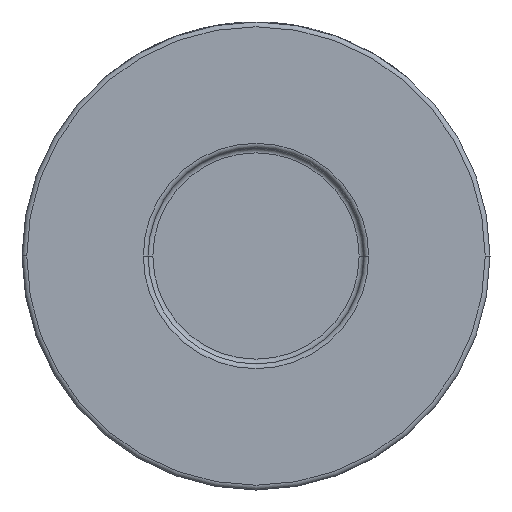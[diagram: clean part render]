
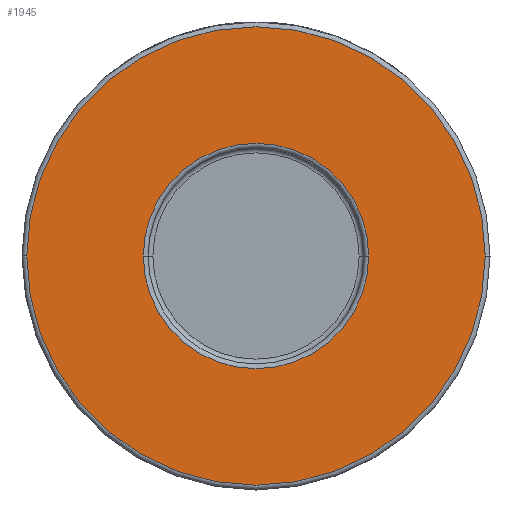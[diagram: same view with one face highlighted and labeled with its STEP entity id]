
A CAD part, front view. The second image highlights one B-rep face of the part: STEP entity #1945.
In plain terms, the highlighted planar face has unit normal (0, -1, 0).
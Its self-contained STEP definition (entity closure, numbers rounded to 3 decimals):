
#153 = EDGE_LOOP ( 'NONE', ( #3253, #1201 ) ) ;
#226 = DIRECTION ( 'NONE',  ( 0., -1., 0. ) ) ;
#300 = EDGE_CURVE ( 'NONE', #673, #565, #2801, .T. ) ;
#565 = VERTEX_POINT ( 'NONE', #3611 ) ;
#673 = VERTEX_POINT ( 'NONE', #1268 ) ;
#682 = DIRECTION ( 'NONE',  ( 1., 0., 0. ) ) ;
#694 = AXIS2_PLACEMENT_3D ( 'NONE', #2698, #791, #4508 ) ;
#791 = DIRECTION ( 'NONE',  ( 0., -1., 0. ) ) ;
#929 = CIRCLE ( 'NONE', #694, 48. ) ;
#1039 = CARTESIAN_POINT ( 'NONE',  ( 49., -30., 0. ) ) ;
#1195 = AXIS2_PLACEMENT_3D ( 'NONE', #1261, #2111, #1333 ) ;
#1201 = ORIENTED_EDGE ( 'NONE', *, *, #300, .T. ) ;
#1261 = CARTESIAN_POINT ( 'NONE',  ( 0., -30., 0. ) ) ;
#1268 = CARTESIAN_POINT ( 'NONE',  ( -23.6, -30., 0. ) ) ;
#1333 = DIRECTION ( 'NONE',  ( 1., 0., 0. ) ) ;
#1500 = VERTEX_POINT ( 'NONE', #4175 ) ;
#1663 = CIRCLE ( 'NONE', #1195, 23.6 ) ;
#1776 = VERTEX_POINT ( 'NONE', #2666 ) ;
#1858 = EDGE_CURVE ( 'NONE', #565, #673, #1663, .T. ) ;
#1945 = ADVANCED_FACE ( 'NONE', ( #2819, #4266 ), #2489, .T. ) ;
#1991 = CARTESIAN_POINT ( 'NONE',  ( 0., -30., 0. ) ) ;
#2006 = AXIS2_PLACEMENT_3D ( 'NONE', #2070, #226, #2842 ) ;
#2070 = CARTESIAN_POINT ( 'NONE',  ( 0., -30., 0. ) ) ;
#2111 = DIRECTION ( 'NONE',  ( 0., 1., 0. ) ) ;
#2398 = DIRECTION ( 'NONE',  ( 0., 1., 0. ) ) ;
#2489 = PLANE ( 'NONE',  #3432 ) ;
#2666 = CARTESIAN_POINT ( 'NONE',  ( 48., -30., 0. ) ) ;
#2698 = CARTESIAN_POINT ( 'NONE',  ( 0., -30., 0. ) ) ;
#2801 = CIRCLE ( 'NONE', #2945, 23.6 ) ;
#2802 = ORIENTED_EDGE ( 'NONE', *, *, #3277, .T. ) ;
#2819 = FACE_BOUND ( 'NONE', #153, .T. ) ;
#2842 = DIRECTION ( 'NONE',  ( 1., 0., 0. ) ) ;
#2855 = CIRCLE ( 'NONE', #2006, 48. ) ;
#2945 = AXIS2_PLACEMENT_3D ( 'NONE', #1991, #2398, #3867 ) ;
#3197 = DIRECTION ( 'NONE',  ( 0., -1., 0. ) ) ;
#3236 = EDGE_CURVE ( 'NONE', #1500, #1776, #929, .T. ) ;
#3253 = ORIENTED_EDGE ( 'NONE', *, *, #1858, .T. ) ;
#3277 = EDGE_CURVE ( 'NONE', #1776, #1500, #2855, .T. ) ;
#3432 = AXIS2_PLACEMENT_3D ( 'NONE', #1039, #3197, #682 ) ;
#3450 = EDGE_LOOP ( 'NONE', ( #2802, #3788 ) ) ;
#3611 = CARTESIAN_POINT ( 'NONE',  ( 23.6, -30., 0. ) ) ;
#3788 = ORIENTED_EDGE ( 'NONE', *, *, #3236, .T. ) ;
#3867 = DIRECTION ( 'NONE',  ( 1., 0., 0. ) ) ;
#4175 = CARTESIAN_POINT ( 'NONE',  ( -48., -30., 0. ) ) ;
#4266 = FACE_OUTER_BOUND ( 'NONE', #3450, .T. ) ;
#4508 = DIRECTION ( 'NONE',  ( 1., 0., 0. ) ) ;
